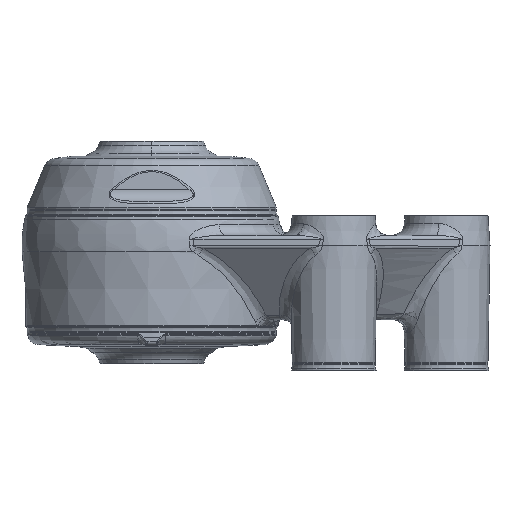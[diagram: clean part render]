
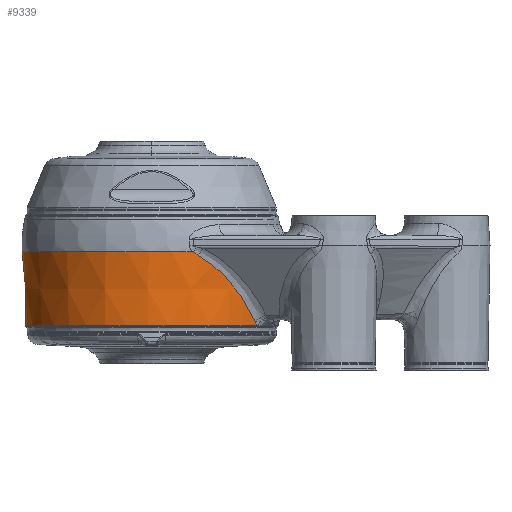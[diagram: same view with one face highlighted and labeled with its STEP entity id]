
A CAD part, left-side view. The second image highlights one B-rep face of the part: STEP entity #9339.
In plain terms, the highlighted conical face has half-angle 2.646 degrees and reference radius 33 mm.
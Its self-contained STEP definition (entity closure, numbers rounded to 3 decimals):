
#39 = EDGE_CURVE ( 'NONE', #3189, #20866, #9541, .T. ) ;
#303 = B_SPLINE_CURVE_WITH_KNOTS ( 'NONE', 3,
 ( #18056, #25732, #33590, #10227, #20616, #15506, #2568, #12957, #23348, #7838 ),
 .UNSPECIFIED., .F., .F.,
 ( 4, 2, 2, 2, 4 ),
 ( 0., 0.006, 0.013, 0.019, 0.026 ),
 .UNSPECIFIED. ) ;
#640 = DIRECTION ( 'NONE',  ( 0., 0., 1. ) ) ;
#926 = B_SPLINE_CURVE_WITH_KNOTS ( 'NONE', 3,
 ( #3717, #18881, #32004, #3047, #16670, #24484 ),
 .UNSPECIFIED., .F., .F.,
 ( 4, 2, 4 ),
 ( 0., 0.001, 0.002 ),
 .UNSPECIFIED. ) ;
#1073 = CARTESIAN_POINT ( 'NONE',  ( -31.013, -10.676, 4.636 ) ) ;
#1495 = EDGE_LOOP ( 'NONE', ( #7418, #20951, #4824, #24356, #19136, #26825, #20203, #15803, #26997, #6021 ) ) ;
#1606 = CARTESIAN_POINT ( 'NONE',  ( -26.089, -19.412, -2.251 ) ) ;
#1819 = DIRECTION ( 'NONE',  ( 0., 0., 1. ) ) ;
#2004 = CARTESIAN_POINT ( 'NONE',  ( 0., 0., 9. ) ) ;
#2271 = CARTESIAN_POINT ( 'NONE',  ( -27.095, -18.111, -0.873 ) ) ;
#2442 = CIRCLE ( 'NONE', #17674, 32.807 ) ;
#2568 = CARTESIAN_POINT ( 'NONE',  ( 22.877, -22.818, -6.655 ) ) ;
#3047 = CARTESIAN_POINT ( 'NONE',  ( 30.755, -11.334, 4.154 ) ) ;
#3143 = CARTESIAN_POINT ( 'NONE',  ( -18.222, -26.282, -13.044 ) ) ;
#3189 = VERTEX_POINT ( 'NONE', #3931 ) ;
#3359 = CARTESIAN_POINT ( 'NONE',  ( 17.471, -26.74, -13.9 ) ) ;
#3514 = VERTEX_POINT ( 'NONE', #19727 ) ;
#3717 = CARTESIAN_POINT ( 'NONE',  ( 31.089, -10.477, 4.828 ) ) ;
#3931 = CARTESIAN_POINT ( 'NONE',  ( 0., 31.942, -13.9 ) ) ;
#4135 = CARTESIAN_POINT ( 'NONE',  ( 0., 0., 4.828 ) ) ;
#4181 = CARTESIAN_POINT ( 'NONE',  ( -19.417, -25.546, -11.402 ) ) ;
#4525 = EDGE_CURVE ( 'NONE', #4912, #28231, #7933, .T. ) ;
#4789 = VERTEX_POINT ( 'NONE', #32164 ) ;
#4824 = ORIENTED_EDGE ( 'NONE', *, *, #6243, .T. ) ;
#4912 = VERTEX_POINT ( 'NONE', #3143 ) ;
#4967 = EDGE_CURVE ( 'NONE', #26326, #33071, #2442, .T. ) ;
#6021 = ORIENTED_EDGE ( 'NONE', *, *, #22413, .T. ) ;
#6243 = EDGE_CURVE ( 'NONE', #20866, #4912, #10262, .T. ) ;
#7418 = ORIENTED_EDGE ( 'NONE', *, *, #25773, .T. ) ;
#7736 = CARTESIAN_POINT ( 'NONE',  ( -30.755, -11.334, 4.154 ) ) ;
#7838 = CARTESIAN_POINT ( 'NONE',  ( 18.222, -26.282, -13.044 ) ) ;
#7933 = B_SPLINE_CURVE_WITH_KNOTS ( 'NONE', 3,
 ( #12496, #4181, #33291, #9425, #9927, #1606, #2271, #22388, #12661, #23052 ),
 .UNSPECIFIED., .F., .F.,
 ( 4, 2, 2, 2, 4 ),
 ( 0., 0.006, 0.013, 0.019, 0.026 ),
 .UNSPECIFIED. ) ;
#8801 = CARTESIAN_POINT ( 'NONE',  ( 17.993, -26.424, -13.359 ) ) ;
#9339 = ADVANCED_FACE ( 'NONE', ( #32514 ), #22013, .T. ) ;
#9397 = CARTESIAN_POINT ( 'NONE',  ( 0., 0., 4.828 ) ) ;
#9425 = CARTESIAN_POINT ( 'NONE',  ( -22.877, -22.818, -6.655 ) ) ;
#9541 = CIRCLE ( 'NONE', #28584, 31.942 ) ;
#9927 = CARTESIAN_POINT ( 'NONE',  ( -23.98, -21.766, -5.142 ) ) ;
#10227 = CARTESIAN_POINT ( 'NONE',  ( 27.095, -18.111, -0.873 ) ) ;
#10262 = B_SPLINE_CURVE_WITH_KNOTS ( 'NONE', 3,
 ( #11558, #19221, #14117, #24854 ),
 .UNSPECIFIED., .F., .F.,
 ( 4, 4 ),
 ( 0.005, 0.006 ),
 .UNSPECIFIED. ) ;
#10292 = CARTESIAN_POINT ( 'NONE',  ( -30.566, -11.798, 3.878 ) ) ;
#11133 = CARTESIAN_POINT ( 'NONE',  ( -30.93, -10.89, 4.466 ) ) ;
#11558 = CARTESIAN_POINT ( 'NONE',  ( -17.471, -26.74, -13.9 ) ) ;
#11815 = CARTESIAN_POINT ( 'NONE',  ( 0., 32.807, 4.828 ) ) ;
#11954 = DIRECTION ( 'NONE',  ( 0., 1., 0. ) ) ;
#12496 = CARTESIAN_POINT ( 'NONE',  ( -18.222, -26.282, -13.044 ) ) ;
#12661 = CARTESIAN_POINT ( 'NONE',  ( -29.83, -13.574, 2.872 ) ) ;
#12957 = CARTESIAN_POINT ( 'NONE',  ( 20.589, -24.713, -9.793 ) ) ;
#14117 = CARTESIAN_POINT ( 'NONE',  ( -17.995, -26.422, -13.356 ) ) ;
#14304 = EDGE_CURVE ( 'NONE', #33532, #20964, #926, .T. ) ;
#14368 = AXIS2_PLACEMENT_3D ( 'NONE', #4135, #24902, #11954 ) ;
#14971 = CIRCLE ( 'NONE', #26963, 31.942 ) ;
#15386 = DIRECTION ( 'NONE',  ( 0., 1., 0. ) ) ;
#15506 = CARTESIAN_POINT ( 'NONE',  ( 23.98, -21.766, -5.142 ) ) ;
#15735 = DIRECTION ( 'NONE',  ( 0., 0., 1. ) ) ;
#15803 = ORIENTED_EDGE ( 'NONE', *, *, #14304, .T. ) ;
#16670 = CARTESIAN_POINT ( 'NONE',  ( 30.663, -11.563, 4.011 ) ) ;
#17674 = AXIS2_PLACEMENT_3D ( 'NONE', #9397, #26985, #19480 ) ;
#18049 = CARTESIAN_POINT ( 'NONE',  ( 30.566, -11.798, 3.878 ) ) ;
#18056 = CARTESIAN_POINT ( 'NONE',  ( 30.566, -11.798, 3.878 ) ) ;
#18721 = CIRCLE ( 'NONE', #14368, 32.807 ) ;
#18881 = CARTESIAN_POINT ( 'NONE',  ( 31.013, -10.676, 4.636 ) ) ;
#19137 = EDGE_CURVE ( 'NONE', #28231, #26326, #27467, .T. ) ;
#19136 = ORIENTED_EDGE ( 'NONE', *, *, #19137, .T. ) ;
#19221 = CARTESIAN_POINT ( 'NONE',  ( -17.742, -26.577, -13.643 ) ) ;
#19383 = CARTESIAN_POINT ( 'NONE',  ( 0., 0., -13.9 ) ) ;
#19480 = DIRECTION ( 'NONE',  ( 0., 1., 0. ) ) ;
#19727 = CARTESIAN_POINT ( 'NONE',  ( 18.222, -26.282, -13.044 ) ) ;
#20203 = ORIENTED_EDGE ( 'NONE', *, *, #23323, .T. ) ;
#20616 = CARTESIAN_POINT ( 'NONE',  ( 26.089, -19.412, -2.251 ) ) ;
#20866 = VERTEX_POINT ( 'NONE', #27456 ) ;
#20951 = ORIENTED_EDGE ( 'NONE', *, *, #39, .T. ) ;
#20964 = VERTEX_POINT ( 'NONE', #18049 ) ;
#22013 = CONICAL_SURFACE ( 'NONE', #31274, 33., 0.046 ) ;
#22388 = CARTESIAN_POINT ( 'NONE',  ( -28.976, -15.174, 1.704 ) ) ;
#22413 = EDGE_CURVE ( 'NONE', #3514, #4789, #30242, .T. ) ;
#23052 = CARTESIAN_POINT ( 'NONE',  ( -30.566, -11.798, 3.878 ) ) ;
#23323 = EDGE_CURVE ( 'NONE', #33071, #33532, #18721, .T. ) ;
#23348 = CARTESIAN_POINT ( 'NONE',  ( 19.417, -25.546, -11.402 ) ) ;
#24072 = CARTESIAN_POINT ( 'NONE',  ( -31.089, -10.477, 4.828 ) ) ;
#24356 = ORIENTED_EDGE ( 'NONE', *, *, #4525, .T. ) ;
#24484 = CARTESIAN_POINT ( 'NONE',  ( 30.566, -11.798, 3.878 ) ) ;
#24645 = DIRECTION ( 'NONE',  ( 0., 1., 0. ) ) ;
#24854 = CARTESIAN_POINT ( 'NONE',  ( -18.222, -26.282, -13.044 ) ) ;
#24902 = DIRECTION ( 'NONE',  ( 0., 0., -1. ) ) ;
#25338 = DIRECTION ( 'NONE',  ( 0., -1., 0. ) ) ;
#25713 = CARTESIAN_POINT ( 'NONE',  ( 31.089, -10.477, 4.828 ) ) ;
#25732 = CARTESIAN_POINT ( 'NONE',  ( 29.83, -13.574, 2.872 ) ) ;
#25773 = EDGE_CURVE ( 'NONE', #4789, #3189, #14971, .T. ) ;
#26292 = CARTESIAN_POINT ( 'NONE',  ( -30.566, -11.798, 3.878 ) ) ;
#26326 = VERTEX_POINT ( 'NONE', #32382 ) ;
#26825 = ORIENTED_EDGE ( 'NONE', *, *, #4967, .T. ) ;
#26963 = AXIS2_PLACEMENT_3D ( 'NONE', #30905, #15735, #15386 ) ;
#26985 = DIRECTION ( 'NONE',  ( 0., 0., -1. ) ) ;
#26997 = ORIENTED_EDGE ( 'NONE', *, *, #27254, .T. ) ;
#27254 = EDGE_CURVE ( 'NONE', #20964, #3514, #303, .T. ) ;
#27456 = CARTESIAN_POINT ( 'NONE',  ( -17.471, -26.74, -13.9 ) ) ;
#27467 = B_SPLINE_CURVE_WITH_KNOTS ( 'NONE', 3,
 ( #10292, #31080, #7736, #11133, #1073, #24072 ),
 .UNSPECIFIED., .F., .F.,
 ( 4, 2, 4 ),
 ( 0., 0.001, 0.002 ),
 .UNSPECIFIED. ) ;
#28231 = VERTEX_POINT ( 'NONE', #26292 ) ;
#28584 = AXIS2_PLACEMENT_3D ( 'NONE', #19383, #640, #24645 ) ;
#29580 = CARTESIAN_POINT ( 'NONE',  ( 17.742, -26.577, -13.643 ) ) ;
#30242 = B_SPLINE_CURVE_WITH_KNOTS ( 'NONE', 3,
 ( #32149, #8801, #29580, #3359 ),
 .UNSPECIFIED., .F., .F.,
 ( 4, 4 ),
 ( 0., 0.001 ),
 .UNSPECIFIED. ) ;
#30905 = CARTESIAN_POINT ( 'NONE',  ( 0., 0., -13.9 ) ) ;
#31080 = CARTESIAN_POINT ( 'NONE',  ( -30.663, -11.563, 4.011 ) ) ;
#31274 = AXIS2_PLACEMENT_3D ( 'NONE', #2004, #1819, #25338 ) ;
#32004 = CARTESIAN_POINT ( 'NONE',  ( 30.93, -10.89, 4.466 ) ) ;
#32149 = CARTESIAN_POINT ( 'NONE',  ( 18.222, -26.282, -13.044 ) ) ;
#32164 = CARTESIAN_POINT ( 'NONE',  ( 17.471, -26.74, -13.9 ) ) ;
#32382 = CARTESIAN_POINT ( 'NONE',  ( -31.089, -10.477, 4.828 ) ) ;
#32514 = FACE_OUTER_BOUND ( 'NONE', #1495, .T. ) ;
#33071 = VERTEX_POINT ( 'NONE', #11815 ) ;
#33291 = CARTESIAN_POINT ( 'NONE',  ( -20.589, -24.713, -9.793 ) ) ;
#33532 = VERTEX_POINT ( 'NONE', #25713 ) ;
#33590 = CARTESIAN_POINT ( 'NONE',  ( 28.976, -15.175, 1.703 ) ) ;
